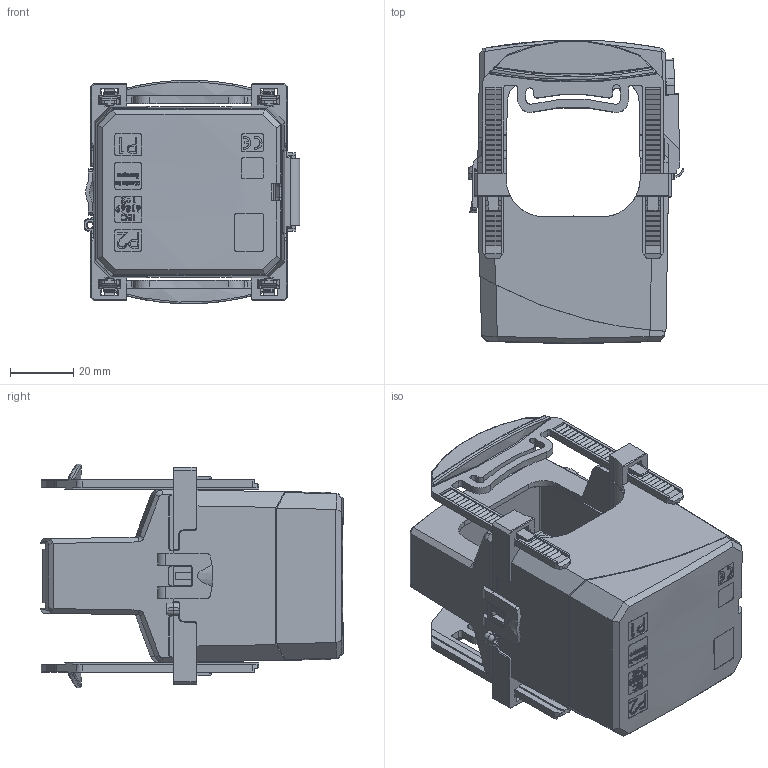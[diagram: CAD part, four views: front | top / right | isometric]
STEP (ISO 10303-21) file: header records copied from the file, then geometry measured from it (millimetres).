
FILE_DESCRIPTION (( 'STEP AP214' ), '1' );
FILE_NAME ('KBR42_kpl.STEP', '2018-08-01T09:03:11', ( '' ), ( '' ), 'SwSTEP 2.0', 'SolidWorks 2016', '' );
FILE_SCHEMA (( 'AUTOMOTIVE_DESIGN' ));
Length unit declared in the file: millimetre
Products named in the file (12): KBR42_kpl; KBR42-Gehäuse-OT_2.8370_02; KBR42-Gehäuse-UT_2.8371_01; KBR42_Kern_3.5526; KBR42_Kernabdeckung_OT_2.8373_01; KBR42_Kernabdeckung_UT_2.8374; KBR42-Wicklung; KBR42_Kern_kpl; KBR42_Innendeckel_2.8375; KBR42_Fixierspange_2.8376_01; Standardtypenschild_22x26; Verrastungselement_02
Assembly tree (12 placements, depth 3):
  KBR42_kpl
    KBR42-Gehäuse-OT_2.8370_02
    KBR42-Gehäuse-UT_2.8371_01
    KBR42_Kern_kpl
      KBR42_Kern_3.5526
      KBR42_Kernabdeckung_OT_2.8373_01
      KBR42_Kernabdeckung_UT_2.8374
      KBR42-Wicklung
    KBR42_Innendeckel_2.8375
    KBR42_Fixierspange_2.8376_01  x2
    Standardtypenschild_22x26
    Verrastungselement_02
Bounding box: 68.3 x 95.85 x 70.73 mm (x, y, z)
Volume: 135399.5 mm3; surface area: 105190.4 mm2
Topology: 13 solids, 13 shells, 2302 faces, 6502 edges, 4271 vertices
Faces by surface type: plane 1627, cylinder 343, bspline 270, cone 44, torus 10, sphere 8
Full cylindrical faces by diameter (mm): 2 x3
Entity records: 71765 total; most frequent: CARTESIAN_POINT 24782, ORIENTED_EDGE 10860, DIRECTION 7897, EDGE_CURVE 5430, VECTOR 3853, LINE 3853, VERTEX_POINT 3576, EDGE_LOOP 2052
